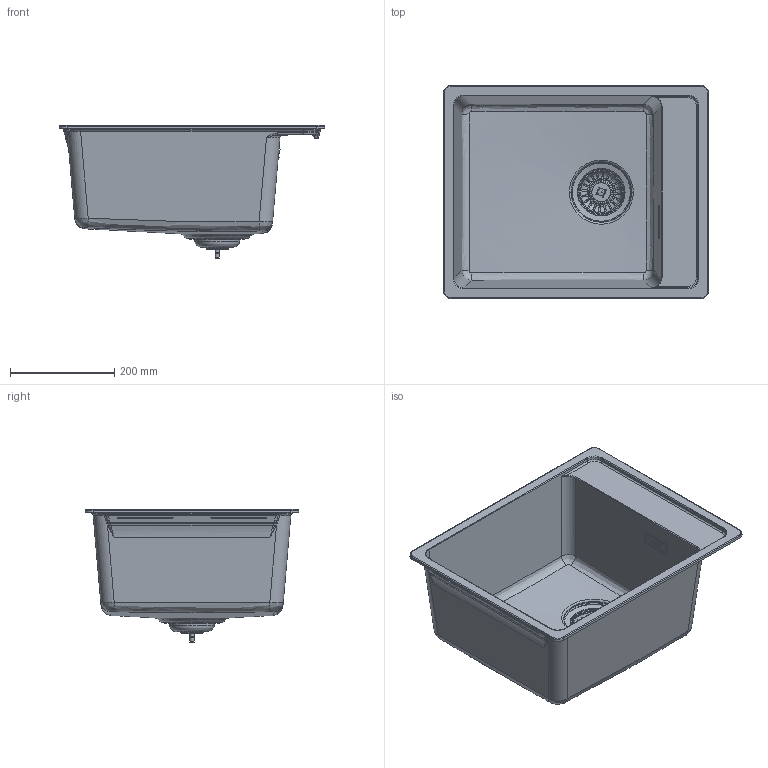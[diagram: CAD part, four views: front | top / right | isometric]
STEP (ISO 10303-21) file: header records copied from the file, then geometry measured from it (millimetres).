
FILE_DESCRIPTION(/* description */ (''),/* implementation_level */ '2;1');
FILE_NAME(/* name */ '3D001_Sinks_Maris_MRG-610-37-TL',/* time_stamp */ '2024-03-18T09:43:57+01:00',/* author */ (''),/* organization */ (''),/* preprocessor_version */ 'ST-DEVELOPER v19.2',/* originating_system */ 'Rhino 8.4',/* authorisation */ '');
FILE_SCHEMA (('CONFIG_CONTROL_DESIGN'));
Length unit declared in the file: millimetre
Products named in the file (13): Document; OVERFLOW; 20117578_IAM_000; 20117565_IPT_000; 20116285_IPT_000; 20117574_IPT_000; 20117576_IPT_000; 20116187_IPT_000; 20117570_IPT_000; 20117567_IPT_000; 20117572_IPT_000; 20197175_iam_000; 20197173_ipt_000
Bounding box: 510 x 410 x 256 mm (x, y, z)
Volume: 3280948.5 mm3; surface area: 976984.6 mm2
Topology: 11 solids, 16 shells, 1487 faces, 4168 edges, 2704 vertices
Faces by surface type: plane 598, bspline 469, cylinder 420
Full cylindrical faces by diameter (mm): 3.242 x1, 4 x1, 4.5 x1, 4.7 x1, 4.85 x1, 5.2 x1, 5.25 x1, 5.85 x2, 6 x1, 6.2 x1, 8 x1, 8.25 x1, 12.6 x1, 13.743 x1, 14.3 x1, 28 x2, 33 x2, 36.5 x1, 47 x1, 84 x1
Entity records: 72184 total; most frequent: CARTESIAN_POINT 38599, ORIENTED_EDGE 8153, EDGE_CURVE 4147, DIRECTION 3798, VERTEX_POINT 2704, B_SPLINE_CURVE_WITH_KNOTS 2689, AXIS2_PLACEMENT_3D 2408, EDGE_LOOP 1592
